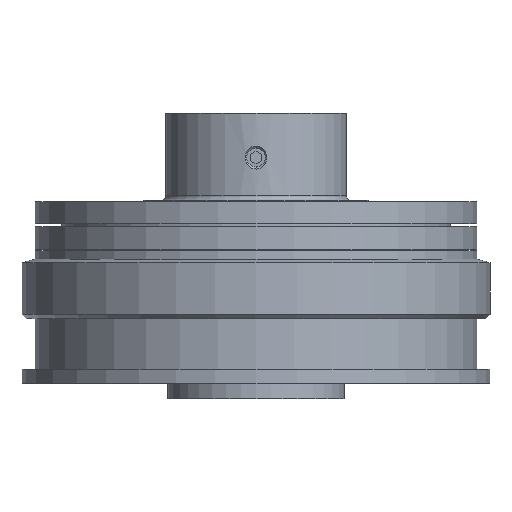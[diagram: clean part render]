
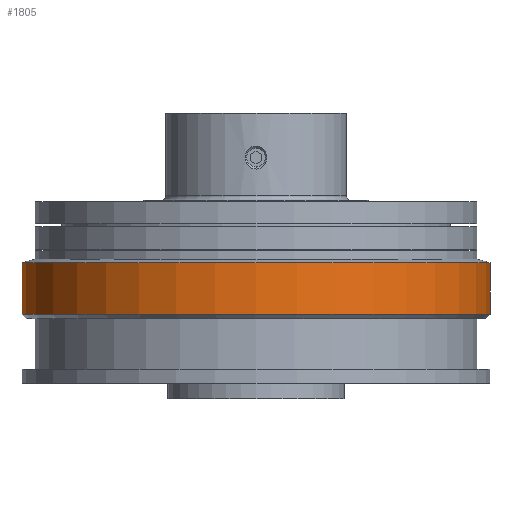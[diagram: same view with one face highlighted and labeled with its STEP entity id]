
A CAD part, front view. The second image highlights one B-rep face of the part: STEP entity #1805.
In plain terms, the highlighted cylindrical face has radius 53 mm (diameter 106 mm), a partial arc.
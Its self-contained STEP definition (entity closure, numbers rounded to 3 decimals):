
#318 = EDGE_LOOP ( 'NONE', ( #415, #1189, #1254, #1195 ) ) ;
#415 = ORIENTED_EDGE ( 'NONE', *, *, #7734, .F. ) ;
#495 = VERTEX_POINT ( 'NONE', #8771 ) ;
#509 = VERTEX_POINT ( 'NONE', #8781 ) ;
#579 = VERTEX_POINT ( 'NONE', #8859 ) ;
#580 = VERTEX_POINT ( 'NONE', #8857 ) ;
#1189 = ORIENTED_EDGE ( 'NONE', *, *, #7952, .T. ) ;
#1195 = ORIENTED_EDGE ( 'NONE', *, *, #7722, .F. ) ;
#1254 = ORIENTED_EDGE ( 'NONE', *, *, #7575, .T. ) ;
#1805 = ADVANCED_FACE ( 'NONE', ( #3868 ), #3918, .T. ) ;
#2101 = CIRCLE ( 'NONE', #5682, 53. ) ;
#2310 = VECTOR ( 'NONE', #4906, 1000. ) ;
#2403 = LINE ( 'NONE', #4904, #2310 ) ;
#2431 = CIRCLE ( 'NONE', #5761, 53. ) ;
#2560 = VECTOR ( 'NONE', #2796, 1000. ) ;
#2562 = LINE ( 'NONE', #2795, #2560 ) ;
#2795 = CARTESIAN_POINT ( 'NONE',  ( 53., 0., 3. ) ) ;
#2796 = DIRECTION ( 'NONE',  ( 0., 0., 1. ) ) ;
#3868 = FACE_OUTER_BOUND ( 'NONE', #318, .T. ) ;
#3918 = CYLINDRICAL_SURFACE ( 'NONE', #8144, 53. ) ;
#4874 = CARTESIAN_POINT ( 'NONE',  ( 0., 0., 27.296 ) ) ;
#4875 = DIRECTION ( 'NONE',  ( 0., 0., 1. ) ) ;
#4876 = DIRECTION ( 'NONE',  ( -1., 0., 0. ) ) ;
#4904 = CARTESIAN_POINT ( 'NONE',  ( -53., 0., 3. ) ) ;
#4906 = DIRECTION ( 'NONE',  ( 0., 0., 1. ) ) ;
#5682 = AXIS2_PLACEMENT_3D ( 'NONE', #9230, #9231, #9232 ) ;
#5761 = AXIS2_PLACEMENT_3D ( 'NONE', #4874, #4875, #4876 ) ;
#7575 = EDGE_CURVE ( 'NONE', #580, #495, #2562, .T. ) ;
#7722 = EDGE_CURVE ( 'NONE', #509, #495, #2431, .T. ) ;
#7734 = EDGE_CURVE ( 'NONE', #579, #509, #2403, .T. ) ;
#7952 = EDGE_CURVE ( 'NONE', #579, #580, #2101, .T. ) ;
#8144 = AXIS2_PLACEMENT_3D ( 'NONE', #10302, #10333, #10413 ) ;
#8771 = CARTESIAN_POINT ( 'NONE',  ( 53., 0., 27.296 ) ) ;
#8781 = CARTESIAN_POINT ( 'NONE',  ( -53., 0., 27.296 ) ) ;
#8857 = CARTESIAN_POINT ( 'NONE',  ( 53., 0., 15.6 ) ) ;
#8859 = CARTESIAN_POINT ( 'NONE',  ( -53., 0., 15.6 ) ) ;
#9230 = CARTESIAN_POINT ( 'NONE',  ( 0., 0., 15.6 ) ) ;
#9231 = DIRECTION ( 'NONE',  ( 0., 0., 1. ) ) ;
#9232 = DIRECTION ( 'NONE',  ( -1., 0., 0. ) ) ;
#10302 = CARTESIAN_POINT ( 'NONE',  ( 0., 0., 3. ) ) ;
#10333 = DIRECTION ( 'NONE',  ( 0., 0., 1. ) ) ;
#10413 = DIRECTION ( 'NONE',  ( 1., 0., 0. ) ) ;
